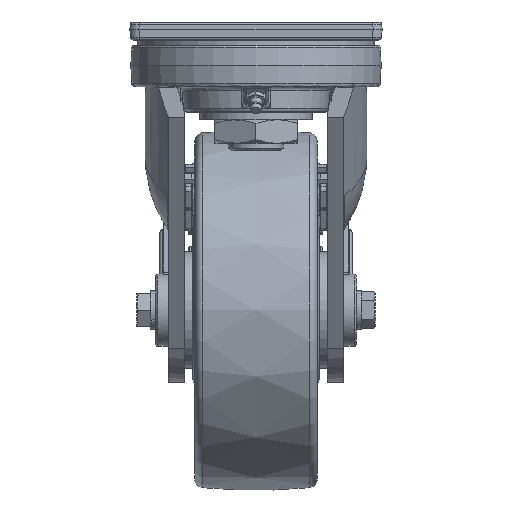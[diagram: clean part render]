
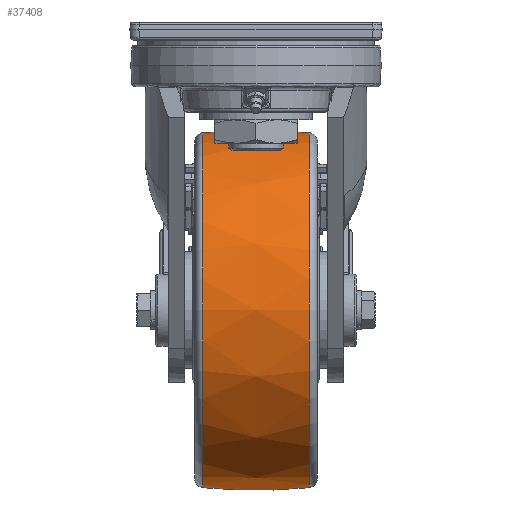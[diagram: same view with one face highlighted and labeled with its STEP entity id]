
A CAD part, left-side view. The second image highlights one B-rep face of the part: STEP entity #37408.
In plain terms, the highlighted free-form (B-spline) face has degree [2, 2] with [3, 9] control points.
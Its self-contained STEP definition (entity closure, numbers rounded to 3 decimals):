
#26=(
BOUNDED_SURFACE()
B_SPLINE_SURFACE(2,2,((#63322,#63323,#63324,#63325,#63326,#63327,#63328,
#63329,#63330),(#63331,#63332,#63333,#63334,#63335,#63336,#63337,#63338,
#63339),(#63340,#63341,#63342,#63343,#63344,#63345,#63346,#63347,#63348)),
 .UNSPECIFIED.,.F.,.T.,.F.)
B_SPLINE_SURFACE_WITH_KNOTS((3,3),(3,2,2,2,3),(-0.098,0.098),
(-3.142,-1.571,0.,1.571,3.142),
 .UNSPECIFIED.)
GEOMETRIC_REPRESENTATION_ITEM()
RATIONAL_B_SPLINE_SURFACE(((1.,0.707,1.,0.707,1.,
0.707,1.,0.707,1.),(0.995,0.704,
0.995,0.704,0.995,0.704,
0.995,0.704,0.995),(1.,0.707,
1.,0.707,1.,0.707,1.,0.707,1.)))
REPRESENTATION_ITEM('')
SURFACE()
);
#4534=FACE_OUTER_BOUND('',#6748,.T.);
#6748=EDGE_LOOP('',(#30701,#30702,#30703,#30704,#30705,#30706));
#14673=CIRCLE('',#40128,98.547);
#14674=CIRCLE('',#40129,98.547);
#14675=CIRCLE('',#40130,300.);
#14676=CIRCLE('',#40131,98.547);
#14677=CIRCLE('',#40132,98.547);
#17087=VERTEX_POINT('',#63317);
#17088=VERTEX_POINT('',#63319);
#17089=VERTEX_POINT('',#63349);
#17090=VERTEX_POINT('',#63351);
#21893=EDGE_CURVE('',#17087,#17088,#14673,.T.);
#21894=EDGE_CURVE('',#17088,#17087,#14674,.T.);
#21895=EDGE_CURVE('',#17087,#17089,#14675,.T.);
#21896=EDGE_CURVE('',#17089,#17090,#14676,.T.);
#21897=EDGE_CURVE('',#17090,#17089,#14677,.T.);
#30701=ORIENTED_EDGE('',*,*,#21894,.F.);
#30702=ORIENTED_EDGE('',*,*,#21893,.F.);
#30703=ORIENTED_EDGE('',*,*,#21895,.T.);
#30704=ORIENTED_EDGE('',*,*,#21896,.T.);
#30705=ORIENTED_EDGE('',*,*,#21897,.T.);
#30706=ORIENTED_EDGE('',*,*,#21895,.F.);
#37408=ADVANCED_FACE('',(#4534),#26,.F.);
#40128=AXIS2_PLACEMENT_3D('',#63320,#46199,#46200);
#40129=AXIS2_PLACEMENT_3D('',#63321,#46201,#46202);
#40130=AXIS2_PLACEMENT_3D('',#63350,#46203,#46204);
#40131=AXIS2_PLACEMENT_3D('',#63352,#46205,#46206);
#40132=AXIS2_PLACEMENT_3D('',#63353,#46207,#46208);
#46199=DIRECTION('center_axis',(0.,1.,0.));
#46200=DIRECTION('ref_axis',(0.,0.,
1.));
#46201=DIRECTION('center_axis',(0.,1.,0.));
#46202=DIRECTION('ref_axis',(0.,0.,
1.));
#46203=DIRECTION('center_axis',(-1.,0.,0.));
#46204=DIRECTION('ref_axis',(0.,0.,
-1.));
#46205=DIRECTION('center_axis',(0.,1.,0.));
#46206=DIRECTION('ref_axis',(0.,0.,
1.));
#46207=DIRECTION('center_axis',(0.,1.,0.));
#46208=DIRECTION('ref_axis',(0.,0.,
1.));
#63317=CARTESIAN_POINT('',(75.,29.492,-254.547));
#63319=CARTESIAN_POINT('',(173.547,29.492,-156.));
#63320=CARTESIAN_POINT('Origin',(75.,29.492,-156.));
#63321=CARTESIAN_POINT('Origin',(75.,29.492,-156.));
#63322=CARTESIAN_POINT('Ctrl Pts',(75.,-29.492,-254.547));
#63323=CARTESIAN_POINT('Ctrl Pts',(-23.547,-29.492,
-254.547));
#63324=CARTESIAN_POINT('Ctrl Pts',(-23.547,-29.492,
-156.));
#63325=CARTESIAN_POINT('Ctrl Pts',(-23.547,-29.492,
-57.453));
#63326=CARTESIAN_POINT('Ctrl Pts',(75.,-29.492,-57.453));
#63327=CARTESIAN_POINT('Ctrl Pts',(173.547,-29.492,-57.453));
#63328=CARTESIAN_POINT('Ctrl Pts',(173.547,-29.492,-156.));
#63329=CARTESIAN_POINT('Ctrl Pts',(173.547,-29.492,-254.547));
#63330=CARTESIAN_POINT('Ctrl Pts',(75.,-29.492,-254.547));
#63331=CARTESIAN_POINT('Ctrl Pts',(75.,0.,
-257.46));
#63332=CARTESIAN_POINT('Ctrl Pts',(-26.46,0.,
-257.46));
#63333=CARTESIAN_POINT('Ctrl Pts',(-26.46,0.,
-156.));
#63334=CARTESIAN_POINT('Ctrl Pts',(-26.46,0.,
-54.54));
#63335=CARTESIAN_POINT('Ctrl Pts',(75.,0.,
-54.54));
#63336=CARTESIAN_POINT('Ctrl Pts',(176.46,0.,
-54.54));
#63337=CARTESIAN_POINT('Ctrl Pts',(176.46,0.,
-156.));
#63338=CARTESIAN_POINT('Ctrl Pts',(176.46,0.,
-257.46));
#63339=CARTESIAN_POINT('Ctrl Pts',(75.,0.,
-257.46));
#63340=CARTESIAN_POINT('Ctrl Pts',(75.,29.492,-254.547));
#63341=CARTESIAN_POINT('Ctrl Pts',(-23.547,29.492,-254.547));
#63342=CARTESIAN_POINT('Ctrl Pts',(-23.547,29.492,-156.));
#63343=CARTESIAN_POINT('Ctrl Pts',(-23.547,29.492,-57.453));
#63344=CARTESIAN_POINT('Ctrl Pts',(75.,29.492,-57.453));
#63345=CARTESIAN_POINT('Ctrl Pts',(173.547,29.492,-57.453));
#63346=CARTESIAN_POINT('Ctrl Pts',(173.547,29.492,-156.));
#63347=CARTESIAN_POINT('Ctrl Pts',(173.547,29.492,-254.547));
#63348=CARTESIAN_POINT('Ctrl Pts',(75.,29.492,-254.547));
#63349=CARTESIAN_POINT('',(75.,-29.492,-254.547));
#63350=CARTESIAN_POINT('Origin',(75.,0.,
44.));
#63351=CARTESIAN_POINT('',(173.547,-29.492,-156.));
#63352=CARTESIAN_POINT('Origin',(75.,-29.492,-156.));
#63353=CARTESIAN_POINT('Origin',(75.,-29.492,-156.));
